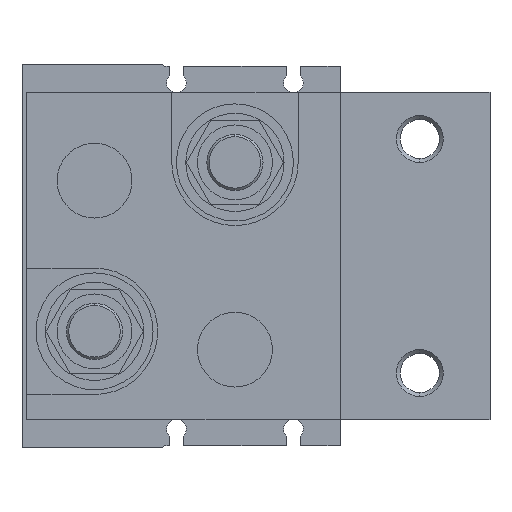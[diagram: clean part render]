
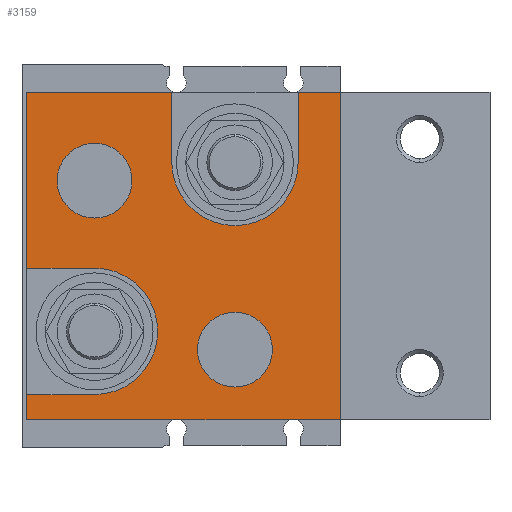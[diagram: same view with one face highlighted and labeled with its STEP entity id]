
A CAD part, left-side view. The second image highlights one B-rep face of the part: STEP entity #3159.
In plain terms, the highlighted planar face has unit normal (-1, 0, 0) as drawn and (1, 0, 0) by its records, which use the part's own axes.
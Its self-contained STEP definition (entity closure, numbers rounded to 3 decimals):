
#18 = CARTESIAN_POINT ( 'NONE',  ( 116., 18.5, 16.1 ) ) ;
#45 = ORIENTED_EDGE ( 'NONE', *, *, #4984, .T. ) ;
#85 = VECTOR ( 'NONE', #1948, 1000. ) ;
#127 = AXIS2_PLACEMENT_3D ( 'NONE', #1460, #288, #3039 ) ;
#207 = CARTESIAN_POINT ( 'NONE',  ( 116., 33., 29.6 ) ) ;
#228 = LINE ( 'NONE', #1784, #1988 ) ;
#266 = VERTEX_POINT ( 'NONE', #2128 ) ;
#288 = DIRECTION ( 'NONE',  ( 1., 0., 0. ) ) ;
#376 = CARTESIAN_POINT ( 'NONE',  ( 116., 33., 35. ) ) ;
#416 = VECTOR ( 'NONE', #3735, 1000. ) ;
#420 = DIRECTION ( 'NONE',  ( 0., 0., -1. ) ) ;
#421 = DIRECTION ( 'NONE',  ( 1., 0., 0. ) ) ;
#505 = ORIENTED_EDGE ( 'NONE', *, *, #2315, .T. ) ;
#511 = CARTESIAN_POINT ( 'NONE',  ( 116., 2., -35. ) ) ;
#519 = DIRECTION ( 'NONE',  ( 0., 0., 1. ) ) ;
#521 = DIRECTION ( 'NONE',  ( 1., 0., 0. ) ) ;
#571 = VECTOR ( 'NONE', #519, 1000. ) ;
#574 = CARTESIAN_POINT ( 'NONE',  ( 116., 18.5, -8.1 ) ) ;
#579 = VERTEX_POINT ( 'NONE', #1583 ) ;
#657 = AXIS2_PLACEMENT_3D ( 'NONE', #4409, #521, #4050 ) ;
#738 = EDGE_CURVE ( 'NONE', #2820, #4493, #228, .T. ) ;
#742 = DIRECTION ( 'NONE',  ( 0., 1., 0. ) ) ;
#797 = DIRECTION ( 'NONE',  ( 1., 0., 0. ) ) ;
#949 = CARTESIAN_POINT ( 'NONE',  ( 116., -34., -35. ) ) ;
#992 = EDGE_CURVE ( 'NONE', #1147, #4604, #2738, .T. ) ;
#998 = DIRECTION ( 'NONE',  ( 0., 0., -1. ) ) ;
#1053 = VERTEX_POINT ( 'NONE', #574 ) ;
#1147 = VERTEX_POINT ( 'NONE', #1317 ) ;
#1216 = AXIS2_PLACEMENT_3D ( 'NONE', #3848, #3337, #1849 ) ;
#1285 = VECTOR ( 'NONE', #3570, 1000. ) ;
#1317 = CARTESIAN_POINT ( 'NONE',  ( 116., -25., -20. ) ) ;
#1366 = PLANE ( 'NONE',  #657 ) ;
#1381 = LINE ( 'NONE', #2961, #4770 ) ;
#1389 = CIRCLE ( 'NONE', #4351, 8. ) ;
#1399 = ORIENTED_EDGE ( 'NONE', *, *, #992, .F. ) ;
#1410 = EDGE_CURVE ( 'NONE', #579, #3573, #4829, .T. ) ;
#1438 = ORIENTED_EDGE ( 'NONE', *, *, #4951, .F. ) ;
#1447 = VERTEX_POINT ( 'NONE', #2849 ) ;
#1460 = CARTESIAN_POINT ( 'NONE',  ( 116., -11.5, 20. ) ) ;
#1471 = VERTEX_POINT ( 'NONE', #3709 ) ;
#1475 = CIRCLE ( 'NONE', #3870, 13.5 ) ;
#1483 = CARTESIAN_POINT ( 'NONE',  ( 116., -66., -35. ) ) ;
#1489 = VERTEX_POINT ( 'NONE', #1791 ) ;
#1572 = LINE ( 'NONE', #376, #3587 ) ;
#1583 = CARTESIAN_POINT ( 'NONE',  ( 116., 2., -35. ) ) ;
#1618 = CARTESIAN_POINT ( 'NONE',  ( 116., 18.5, 29.6 ) ) ;
#1641 = DIRECTION ( 'NONE',  ( 0., 1., 0. ) ) ;
#1670 = EDGE_CURVE ( 'NONE', #1447, #1489, #1572, .T. ) ;
#1711 = CARTESIAN_POINT ( 'NONE',  ( 116., -11.5, 28. ) ) ;
#1740 = LINE ( 'NONE', #2051, #2828 ) ;
#1748 = CARTESIAN_POINT ( 'NONE',  ( 116., 18.5, -16.1 ) ) ;
#1784 = CARTESIAN_POINT ( 'NONE',  ( 116., 18.5, 2.6 ) ) ;
#1791 = CARTESIAN_POINT ( 'NONE',  ( 116., -34., 35. ) ) ;
#1838 = EDGE_LOOP ( 'NONE', ( #4838, #4853 ) ) ;
#1849 = DIRECTION ( 'NONE',  ( 0., 0., -1. ) ) ;
#1854 = ORIENTED_EDGE ( 'NONE', *, *, #738, .F. ) ;
#1937 = ORIENTED_EDGE ( 'NONE', *, *, #4393, .T. ) ;
#1948 = DIRECTION ( 'NONE',  ( 0., 0., 1. ) ) ;
#1985 = CARTESIAN_POINT ( 'NONE',  ( 116., -25., -20. ) ) ;
#1988 = VECTOR ( 'NONE', #1998, 1000. ) ;
#1998 = DIRECTION ( 'NONE',  ( 0., 1., 0. ) ) ;
#2051 = CARTESIAN_POINT ( 'NONE',  ( 116., -66., -35. ) ) ;
#2062 = VERTEX_POINT ( 'NONE', #949 ) ;
#2091 = CARTESIAN_POINT ( 'NONE',  ( 116., 18.5, 2.6 ) ) ;
#2128 = CARTESIAN_POINT ( 'NONE',  ( 116., 18.5, -24.1 ) ) ;
#2238 = ORIENTED_EDGE ( 'NONE', *, *, #1670, .T. ) ;
#2315 = EDGE_CURVE ( 'NONE', #579, #3654, #1740, .T. ) ;
#2514 = EDGE_CURVE ( 'NONE', #1471, #4093, #3506, .T. ) ;
#2549 = FACE_BOUND ( 'NONE', #1838, .T. ) ;
#2559 = EDGE_CURVE ( 'NONE', #3573, #1147, #4402, .T. ) ;
#2664 = EDGE_CURVE ( 'NONE', #2062, #4604, #5020, .T. ) ;
#2709 = CIRCLE ( 'NONE', #4196, 8. ) ;
#2737 = CARTESIAN_POINT ( 'NONE',  ( 116., 33., 29.6 ) ) ;
#2738 = LINE ( 'NONE', #1985, #1285 ) ;
#2786 = CIRCLE ( 'NONE', #1216, 8. ) ;
#2813 = DIRECTION ( 'NONE',  ( 0., -1., 0. ) ) ;
#2820 = VERTEX_POINT ( 'NONE', #2091 ) ;
#2828 = VECTOR ( 'NONE', #1641, 1000. ) ;
#2834 = AXIS2_PLACEMENT_3D ( 'NONE', #3889, #4729, #4710 ) ;
#2849 = CARTESIAN_POINT ( 'NONE',  ( 116., 33., 35. ) ) ;
#2891 = EDGE_LOOP ( 'NONE', ( #4222, #4625 ) ) ;
#2910 = CARTESIAN_POINT ( 'NONE',  ( 116., 33., 2.6 ) ) ;
#2961 = CARTESIAN_POINT ( 'NONE',  ( 116., -34., 35. ) ) ;
#3039 = DIRECTION ( 'NONE',  ( 0., 0., -1. ) ) ;
#3099 = EDGE_CURVE ( 'NONE', #4093, #1471, #1389, .T. ) ;
#3159 = ADVANCED_FACE ( 'NONE', ( #2549, #3719, #4436 ), #1366, .T. ) ;
#3161 = ORIENTED_EDGE ( 'NONE', *, *, #4267, .F. ) ;
#3166 = DIRECTION ( 'NONE',  ( 0., 0., 1. ) ) ;
#3225 = EDGE_CURVE ( 'NONE', #1053, #266, #2709, .T. ) ;
#3250 = DIRECTION ( 'NONE',  ( 1., 0., 0. ) ) ;
#3337 = DIRECTION ( 'NONE',  ( 1., 0., 0. ) ) ;
#3338 = DIRECTION ( 'NONE',  ( 0., 0., -1. ) ) ;
#3366 = VECTOR ( 'NONE', #3166, 1000. ) ;
#3427 = ORIENTED_EDGE ( 'NONE', *, *, #1410, .F. ) ;
#3506 = CIRCLE ( 'NONE', #127, 8. ) ;
#3562 = LINE ( 'NONE', #4714, #85 ) ;
#3569 = DIRECTION ( 'NONE',  ( 0., 0., -1. ) ) ;
#3570 = DIRECTION ( 'NONE',  ( 0., 0., -1. ) ) ;
#3573 = VERTEX_POINT ( 'NONE', #3638 ) ;
#3587 = VECTOR ( 'NONE', #2813, 1000. ) ;
#3638 = CARTESIAN_POINT ( 'NONE',  ( 116., 2., -20. ) ) ;
#3654 = VERTEX_POINT ( 'NONE', #4455 ) ;
#3665 = LINE ( 'NONE', #4485, #571 ) ;
#3709 = CARTESIAN_POINT ( 'NONE',  ( 116., -11.5, 12. ) ) ;
#3710 = LINE ( 'NONE', #207, #416 ) ;
#3719 = FACE_BOUND ( 'NONE', #2891, .T. ) ;
#3723 = ORIENTED_EDGE ( 'NONE', *, *, #4779, .T. ) ;
#3735 = DIRECTION ( 'NONE',  ( 0., -1., 0. ) ) ;
#3848 = CARTESIAN_POINT ( 'NONE',  ( 116., 18.5, -16.1 ) ) ;
#3870 = AXIS2_PLACEMENT_3D ( 'NONE', #18, #797, #420 ) ;
#3889 = CARTESIAN_POINT ( 'NONE',  ( 116., -11.5, -20. ) ) ;
#3952 = CARTESIAN_POINT ( 'NONE',  ( 116., -11.5, 20. ) ) ;
#4050 = DIRECTION ( 'NONE',  ( 0., 1., 0. ) ) ;
#4093 = VERTEX_POINT ( 'NONE', #1711 ) ;
#4196 = AXIS2_PLACEMENT_3D ( 'NONE', #1748, #3250, #3338 ) ;
#4222 = ORIENTED_EDGE ( 'NONE', *, *, #2514, .F. ) ;
#4255 = VERTEX_POINT ( 'NONE', #1618 ) ;
#4267 = EDGE_CURVE ( 'NONE', #4255, #2820, #1475, .T. ) ;
#4351 = AXIS2_PLACEMENT_3D ( 'NONE', #3952, #421, #3569 ) ;
#4382 = VERTEX_POINT ( 'NONE', #2737 ) ;
#4393 = EDGE_CURVE ( 'NONE', #3654, #4493, #3665, .T. ) ;
#4402 = CIRCLE ( 'NONE', #2834, 13.5 ) ;
#4409 = CARTESIAN_POINT ( 'NONE',  ( 116., 0., 0. ) ) ;
#4436 = FACE_OUTER_BOUND ( 'NONE', #4567, .T. ) ;
#4455 = CARTESIAN_POINT ( 'NONE',  ( 116., 33., -35. ) ) ;
#4485 = CARTESIAN_POINT ( 'NONE',  ( 116., 33., -35. ) ) ;
#4493 = VERTEX_POINT ( 'NONE', #2910 ) ;
#4567 = EDGE_LOOP ( 'NONE', ( #3427, #505, #1937, #1854, #3161, #1438, #3723, #2238, #45, #4936, #1399, #4668 ) ) ;
#4581 = EDGE_CURVE ( 'NONE', #266, #1053, #2786, .T. ) ;
#4604 = VERTEX_POINT ( 'NONE', #4998 ) ;
#4625 = ORIENTED_EDGE ( 'NONE', *, *, #3099, .F. ) ;
#4668 = ORIENTED_EDGE ( 'NONE', *, *, #2559, .F. ) ;
#4710 = DIRECTION ( 'NONE',  ( 0., 0., -1. ) ) ;
#4714 = CARTESIAN_POINT ( 'NONE',  ( 116., 33., -35. ) ) ;
#4729 = DIRECTION ( 'NONE',  ( 1., 0., 0. ) ) ;
#4770 = VECTOR ( 'NONE', #998, 1000. ) ;
#4779 = EDGE_CURVE ( 'NONE', #4382, #1447, #3562, .T. ) ;
#4829 = LINE ( 'NONE', #511, #3366 ) ;
#4838 = ORIENTED_EDGE ( 'NONE', *, *, #4581, .F. ) ;
#4853 = ORIENTED_EDGE ( 'NONE', *, *, #3225, .F. ) ;
#4899 = VECTOR ( 'NONE', #742, 1000. ) ;
#4936 = ORIENTED_EDGE ( 'NONE', *, *, #2664, .T. ) ;
#4951 = EDGE_CURVE ( 'NONE', #4382, #4255, #3710, .T. ) ;
#4984 = EDGE_CURVE ( 'NONE', #1489, #2062, #1381, .T. ) ;
#4998 = CARTESIAN_POINT ( 'NONE',  ( 116., -25., -35. ) ) ;
#5020 = LINE ( 'NONE', #1483, #4899 ) ;
